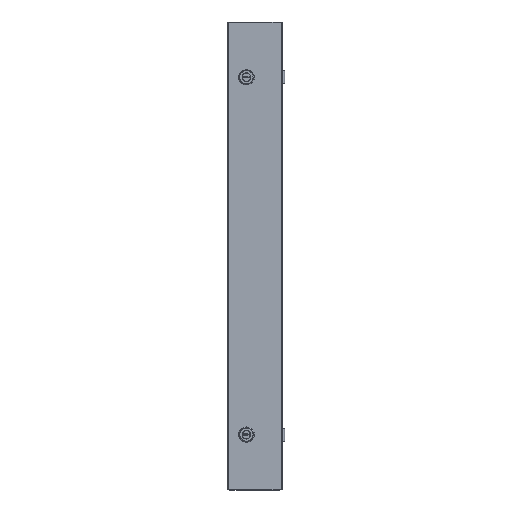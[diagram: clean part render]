
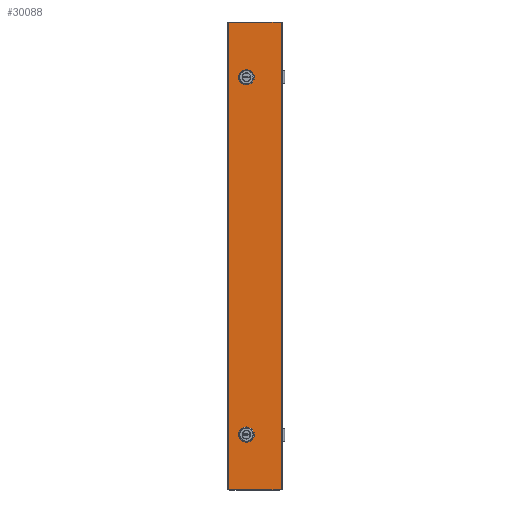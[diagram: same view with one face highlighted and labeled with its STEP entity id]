
A CAD part, top view. The second image highlights one B-rep face of the part: STEP entity #30088.
In plain terms, the highlighted planar face has unit normal (0, 0, 1).
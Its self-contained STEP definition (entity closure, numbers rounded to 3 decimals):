
#1622=FACE_BOUND('',#4357,.T.);
#1623=FACE_BOUND('',#4358,.T.);
#2448=FACE_OUTER_BOUND('',#4356,.T.);
#4356=EDGE_LOOP('',(#21276,#21277,#21278,#21279));
#4357=EDGE_LOOP('',(#21280,#21281,#21282,#21283,#21284,#21285,#21286,#21287,
#21288,#21289));
#4358=EDGE_LOOP('',(#21290,#21291,#21292,#21293,#21294,#21295,#21296,#21297,
#21298,#21299));
#6421=LINE('',#43849,#9001);
#6426=LINE('',#43863,#9006);
#6431=LINE('',#43872,#9011);
#6447=LINE('',#43923,#9027);
#6450=LINE('',#43930,#9030);
#6452=LINE('',#43936,#9032);
#6454=LINE('',#43945,#9034);
#6458=LINE('',#43954,#9038);
#6461=LINE('',#43959,#9041);
#6464=LINE('',#43968,#9044);
#6467=LINE('',#43975,#9047);
#6469=LINE('',#43981,#9049);
#6518=LINE('',#44099,#9098);
#6523=LINE('',#44117,#9103);
#6528=LINE('',#44131,#9108);
#6529=LINE('',#44133,#9109);
#9001=VECTOR('',#35763,0.394);
#9006=VECTOR('',#35776,0.394);
#9011=VECTOR('',#35783,0.394);
#9027=VECTOR('',#35823,0.394);
#9030=VECTOR('',#35832,0.394);
#9032=VECTOR('',#35840,0.394);
#9034=VECTOR('',#35850,0.394);
#9038=VECTOR('',#35860,0.394);
#9041=VECTOR('',#35865,0.394);
#9044=VECTOR('',#35874,0.394);
#9047=VECTOR('',#35883,0.394);
#9049=VECTOR('',#35891,0.394);
#9098=VECTOR('',#35996,0.394);
#9103=VECTOR('',#36021,0.394);
#9108=VECTOR('',#36044,0.394);
#9109=VECTOR('',#36047,0.394);
#11328=CIRCLE('',#32229,0.492);
#11338=CIRCLE('',#32243,0.443);
#11339=CIRCLE('',#32246,0.443);
#11340=CIRCLE('',#32249,0.443);
#11342=CIRCLE('',#32256,0.492);
#11343=CIRCLE('',#32260,0.443);
#11344=CIRCLE('',#32263,0.443);
#11345=CIRCLE('',#32266,0.443);
#12738=VERTEX_POINT('',#43847);
#12739=VERTEX_POINT('',#43848);
#12742=VERTEX_POINT('',#43856);
#12744=VERTEX_POINT('',#43862);
#12747=VERTEX_POINT('',#43870);
#12768=VERTEX_POINT('',#43916);
#12769=VERTEX_POINT('',#43918);
#12770=VERTEX_POINT('',#43922);
#12771=VERTEX_POINT('',#43928);
#12772=VERTEX_POINT('',#43932);
#12774=VERTEX_POINT('',#43943);
#12775=VERTEX_POINT('',#43944);
#12776=VERTEX_POINT('',#43949);
#12777=VERTEX_POINT('',#43953);
#12778=VERTEX_POINT('',#43957);
#12779=VERTEX_POINT('',#43961);
#12780=VERTEX_POINT('',#43962);
#12781=VERTEX_POINT('',#43967);
#12782=VERTEX_POINT('',#43971);
#12783=VERTEX_POINT('',#43977);
#12823=VERTEX_POINT('',#44096);
#12824=VERTEX_POINT('',#44098);
#12826=VERTEX_POINT('',#44114);
#12827=VERTEX_POINT('',#44116);
#15802=EDGE_CURVE('',#12738,#12739,#6421,.T.);
#15806=EDGE_CURVE('',#12742,#12738,#11328,.T.);
#15809=EDGE_CURVE('',#12744,#12742,#6426,.T.);
#15814=EDGE_CURVE('',#12739,#12747,#6431,.T.);
#15837=EDGE_CURVE('',#12769,#12768,#11338,.T.);
#15839=EDGE_CURVE('',#12770,#12769,#6447,.T.);
#15841=EDGE_CURVE('',#12747,#12770,#11339,.T.);
#15843=EDGE_CURVE('',#12768,#12771,#6450,.T.);
#15845=EDGE_CURVE('',#12771,#12772,#11340,.T.);
#15846=EDGE_CURVE('',#12772,#12744,#6452,.T.);
#15849=EDGE_CURVE('',#12774,#12775,#6454,.T.);
#15852=EDGE_CURVE('',#12776,#12774,#11342,.T.);
#15854=EDGE_CURVE('',#12777,#12776,#6458,.T.);
#15857=EDGE_CURVE('',#12775,#12778,#6461,.T.);
#15858=EDGE_CURVE('',#12779,#12780,#11343,.T.);
#15861=EDGE_CURVE('',#12780,#12781,#6464,.T.);
#15863=EDGE_CURVE('',#12781,#12782,#11344,.T.);
#15865=EDGE_CURVE('',#12782,#12777,#6467,.T.);
#15866=EDGE_CURVE('',#12778,#12783,#11345,.T.);
#15868=EDGE_CURVE('',#12783,#12779,#6469,.T.);
#15926=EDGE_CURVE('',#12824,#12823,#6518,.T.);
#15935=EDGE_CURVE('',#12827,#12826,#6523,.T.);
#15943=EDGE_CURVE('',#12824,#12826,#6528,.T.);
#15944=EDGE_CURVE('',#12827,#12823,#6529,.T.);
#21276=ORIENTED_EDGE('',*,*,#15926,.T.);
#21277=ORIENTED_EDGE('',*,*,#15944,.F.);
#21278=ORIENTED_EDGE('',*,*,#15935,.T.);
#21279=ORIENTED_EDGE('',*,*,#15943,.F.);
#21280=ORIENTED_EDGE('',*,*,#15802,.T.);
#21281=ORIENTED_EDGE('',*,*,#15814,.T.);
#21282=ORIENTED_EDGE('',*,*,#15841,.T.);
#21283=ORIENTED_EDGE('',*,*,#15839,.T.);
#21284=ORIENTED_EDGE('',*,*,#15837,.T.);
#21285=ORIENTED_EDGE('',*,*,#15843,.T.);
#21286=ORIENTED_EDGE('',*,*,#15845,.T.);
#21287=ORIENTED_EDGE('',*,*,#15846,.T.);
#21288=ORIENTED_EDGE('',*,*,#15809,.T.);
#21289=ORIENTED_EDGE('',*,*,#15806,.T.);
#21290=ORIENTED_EDGE('',*,*,#15849,.T.);
#21291=ORIENTED_EDGE('',*,*,#15857,.T.);
#21292=ORIENTED_EDGE('',*,*,#15866,.T.);
#21293=ORIENTED_EDGE('',*,*,#15868,.T.);
#21294=ORIENTED_EDGE('',*,*,#15858,.T.);
#21295=ORIENTED_EDGE('',*,*,#15861,.T.);
#21296=ORIENTED_EDGE('',*,*,#15863,.T.);
#21297=ORIENTED_EDGE('',*,*,#15865,.T.);
#21298=ORIENTED_EDGE('',*,*,#15854,.T.);
#21299=ORIENTED_EDGE('',*,*,#15852,.T.);
#29266=PLANE('',#32315);
#30088=ADVANCED_FACE('',(#2448,#1622,#1623),#29266,.T.);
#32229=AXIS2_PLACEMENT_3D('',#43857,#35769,#35770);
#32243=AXIS2_PLACEMENT_3D('',#43919,#35818,#35819);
#32246=AXIS2_PLACEMENT_3D('',#43926,#35827,#35828);
#32249=AXIS2_PLACEMENT_3D('',#43934,#35836,#35837);
#32256=AXIS2_PLACEMENT_3D('',#43950,#35855,#35856);
#32260=AXIS2_PLACEMENT_3D('',#43963,#35868,#35869);
#32263=AXIS2_PLACEMENT_3D('',#43972,#35878,#35879);
#32266=AXIS2_PLACEMENT_3D('',#43978,#35886,#35887);
#32315=AXIS2_PLACEMENT_3D('',#44132,#36045,#36046);
#35763=DIRECTION('',(0.,1.,0.));
#35769=DIRECTION('center_axis',(0.,0.,-1.));
#35770=DIRECTION('ref_axis',(-1.,0.,0.));
#35776=DIRECTION('',(1.,0.,0.));
#35783=DIRECTION('',(-1.,0.,0.));
#35818=DIRECTION('center_axis',(0.,0.,-1.));
#35819=DIRECTION('ref_axis',(-1.,0.,0.));
#35823=DIRECTION('',(0.,1.,0.));
#35827=DIRECTION('center_axis',(0.,0.,-1.));
#35828=DIRECTION('ref_axis',(-1.,0.,0.));
#35832=DIRECTION('',(1.,0.,0.));
#35836=DIRECTION('center_axis',(0.,0.,-1.));
#35837=DIRECTION('ref_axis',(-1.,0.,0.));
#35840=DIRECTION('',(0.,-1.,0.));
#35850=DIRECTION('',(0.,1.,0.));
#35855=DIRECTION('center_axis',(0.,0.,-1.));
#35856=DIRECTION('ref_axis',(-1.,0.,0.));
#35860=DIRECTION('',(1.,0.,0.));
#35865=DIRECTION('',(-1.,0.,0.));
#35868=DIRECTION('center_axis',(0.,0.,-1.));
#35869=DIRECTION('ref_axis',(-1.,0.,0.));
#35874=DIRECTION('',(1.,0.,0.));
#35878=DIRECTION('center_axis',(0.,0.,-1.));
#35879=DIRECTION('ref_axis',(-1.,0.,0.));
#35883=DIRECTION('',(0.,-1.,0.));
#35886=DIRECTION('center_axis',(0.,0.,-1.));
#35887=DIRECTION('ref_axis',(-1.,0.,0.));
#35891=DIRECTION('',(0.,1.,0.));
#35996=DIRECTION('',(0.,-1.,0.));
#36021=DIRECTION('',(0.,1.,0.));
#36044=DIRECTION('',(1.,0.,0.));
#36045=DIRECTION('center_axis',(0.,0.,1.));
#36046=DIRECTION('ref_axis',(1.,0.,0.));
#36047=DIRECTION('',(-1.,0.,0.));
#43847=CARTESIAN_POINT('',(-0.729,13.264,0.055));
#43848=CARTESIAN_POINT('',(-0.729,13.354,0.055));
#43849=CARTESIAN_POINT('',(-0.729,6.632,0.055));
#43856=CARTESIAN_POINT('',(-0.164,13.829,0.055));
#43857=CARTESIAN_POINT('Origin',(-0.65,13.75,0.055));
#43862=CARTESIAN_POINT('',(-0.254,13.829,0.055));
#43863=CARTESIAN_POINT('',(-0.364,13.829,0.055));
#43870=CARTESIAN_POINT('',(-0.849,13.354,0.055));
#43872=CARTESIAN_POINT('',(-0.225,13.354,0.055));
#43916=CARTESIAN_POINT('',(-0.849,14.146,0.055));
#43918=CARTESIAN_POINT('',(-1.046,13.949,0.055));
#43919=CARTESIAN_POINT('Origin',(-0.65,13.75,0.055));
#43922=CARTESIAN_POINT('',(-1.046,13.551,0.055));
#43923=CARTESIAN_POINT('',(-1.046,6.775,0.055));
#43926=CARTESIAN_POINT('Origin',(-0.65,13.75,0.055));
#43928=CARTESIAN_POINT('',(-0.451,14.146,0.055));
#43930=CARTESIAN_POINT('',(-0.425,14.146,0.055));
#43932=CARTESIAN_POINT('',(-0.254,13.949,0.055));
#43934=CARTESIAN_POINT('Origin',(-0.65,13.75,0.055));
#43936=CARTESIAN_POINT('',(-0.254,6.975,0.055));
#43943=CARTESIAN_POINT('',(-0.729,-14.236,0.055));
#43944=CARTESIAN_POINT('',(-0.729,-14.146,0.055));
#43945=CARTESIAN_POINT('',(-0.729,-7.118,0.055));
#43949=CARTESIAN_POINT('',(-0.164,-13.671,0.055));
#43950=CARTESIAN_POINT('Origin',(-0.65,-13.75,0.055));
#43953=CARTESIAN_POINT('',(-0.254,-13.671,0.055));
#43954=CARTESIAN_POINT('',(-0.364,-13.671,0.055));
#43957=CARTESIAN_POINT('',(-0.849,-14.146,0.055));
#43959=CARTESIAN_POINT('',(-0.225,-14.146,0.055));
#43961=CARTESIAN_POINT('',(-1.046,-13.551,0.055));
#43962=CARTESIAN_POINT('',(-0.849,-13.354,0.055));
#43963=CARTESIAN_POINT('Origin',(-0.65,-13.75,0.055));
#43967=CARTESIAN_POINT('',(-0.451,-13.354,0.055));
#43968=CARTESIAN_POINT('',(-0.425,-13.354,0.055));
#43971=CARTESIAN_POINT('',(-0.254,-13.551,0.055));
#43972=CARTESIAN_POINT('Origin',(-0.65,-13.75,0.055));
#43975=CARTESIAN_POINT('',(-0.254,-6.775,0.055));
#43977=CARTESIAN_POINT('',(-1.046,-13.949,0.055));
#43978=CARTESIAN_POINT('Origin',(-0.65,-13.75,0.055));
#43981=CARTESIAN_POINT('',(-1.046,-6.975,0.055));
#44096=CARTESIAN_POINT('',(-2.024,-18.,0.055));
#44098=CARTESIAN_POINT('',(-2.024,18.,0.055));
#44099=CARTESIAN_POINT('',(-2.024,9.,0.055));
#44114=CARTESIAN_POINT('',(2.024,18.,0.055));
#44116=CARTESIAN_POINT('',(2.024,-18.,0.055));
#44117=CARTESIAN_POINT('',(2.024,-9.,0.055));
#44131=CARTESIAN_POINT('',(2.11,18.,0.055));
#44132=CARTESIAN_POINT('Origin',(0.,0.,0.055));
#44133=CARTESIAN_POINT('',(-2.11,-18.,0.055));
